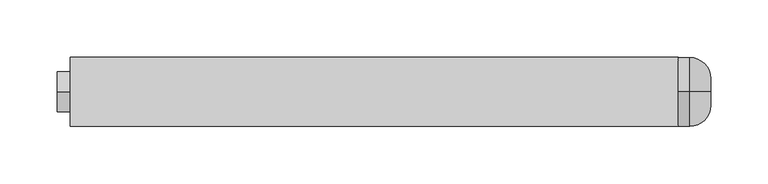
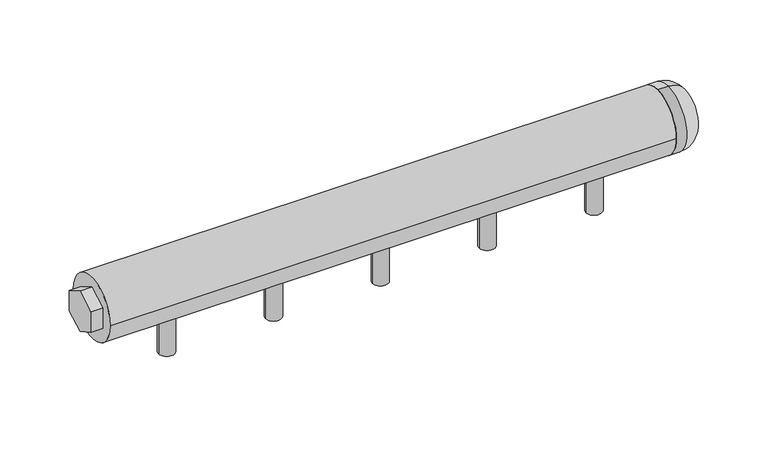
"""IFC4 building model written with IfcOpenShell, lengths in millimetres: valve geometry, Коллектор подающий : Коллектор DN32 - 5 х DN15."""

from ifc_helpers import new_model, si_unit, point, frame, frame_2d, origin, origin_2d, place, context, project, spatial, polyline, circle_curve, ellipse_curve, trimmed, segment, composite_curve, outline, extrude, source, transform, mapped, element, save
from ifc_brep_helpers import plane_surface, cylinder_surface, revolved_surface, advanced_brep


def valve_356c29cf(model_context):
    return source(origin(), model_context, "Body", "SolidModel", [
        extrude(outline(composite_curve([segment(trimmed(circle_curve(frame_2d((481.0, 0.0)), 7.5), [point((473.5, 0.0))], [point((488.5, 0.0))], False, "CARTESIAN"), True, "CONTINUOUS"), segment(trimmed(circle_curve(frame_2d((481.0, 0.0)), 7.5), [point((488.5, 0.0))], [point((473.5, 0.0))], False, "CARTESIAN"), True, "CONTINUOUS")], self_intersect=False)), frame((0.0, 0.0, -68.0), z_axis=(0.0, 0.0, 1.0), x_axis=(1.0, 0.0, 0.0)), (0.0, 0.0, 1.0), 68.0),
        extrude(outline(composite_curve([segment(trimmed(circle_curve(frame_2d((381.0, 0.0)), 7.5), [point((373.5, 0.0))], [point((388.5, 0.0))], False, "CARTESIAN"), True, "CONTINUOUS"), segment(trimmed(circle_curve(frame_2d((381.0, 0.0)), 7.5), [point((388.5, 0.0))], [point((373.5, 0.0))], False, "CARTESIAN"), True, "CONTINUOUS")], self_intersect=False)), frame((0.0, 0.0, -68.0), z_axis=(0.0, 0.0, 1.0), x_axis=(1.0, 0.0, 0.0)), (0.0, 0.0, 1.0), 68.0),
        extrude(outline(composite_curve([segment(trimmed(circle_curve(frame_2d((281.0, 0.0)), 7.5), [point((273.5, 0.0))], [point((288.5, 0.0))], False, "CARTESIAN"), True, "CONTINUOUS"), segment(trimmed(circle_curve(frame_2d((281.0, 0.0)), 7.5), [point((288.5, 0.0))], [point((273.5, 0.0))], False, "CARTESIAN"), True, "CONTINUOUS")], self_intersect=False)), frame((0.0, 0.0, -68.0), z_axis=(0.0, 0.0, 1.0), x_axis=(1.0, 0.0, 0.0)), (0.0, 0.0, 1.0), 68.0),
        extrude(outline(composite_curve([segment(trimmed(circle_curve(frame_2d((181.0, 0.0)), 7.5), [point((173.5, 0.0))], [point((188.5, 0.0))], False, "CARTESIAN"), True, "CONTINUOUS"), segment(trimmed(circle_curve(frame_2d((181.0, 0.0)), 7.5), [point((188.5, 0.0))], [point((173.5, 0.0))], False, "CARTESIAN"), True, "CONTINUOUS")], self_intersect=False)), frame((0.0, 0.0, -68.0), z_axis=(0.0, 0.0, 1.0), x_axis=(1.0, 0.0, 0.0)), (0.0, 0.0, 1.0), 68.0),
        extrude(outline(composite_curve([segment(trimmed(circle_curve(frame_2d((81.0, 0.0)), 7.5), [point((73.5, 0.0))], [point((88.5, 0.0))], False, "CARTESIAN"), True, "CONTINUOUS"), segment(trimmed(circle_curve(frame_2d((81.0, 0.0)), 7.5), [point((88.5, 0.0))], [point((73.5, 0.0))], False, "CARTESIAN"), True, "CONTINUOUS")], self_intersect=False)), frame((0.0, 0.0, -68.0), z_axis=(0.0, 0.0, 1.0), x_axis=(1.0, 0.0, 0.0)), (0.0, 0.0, 1.0), 68.0),
        extrude(outline(polyline([(17.5, 10.1036297), (17.5, -10.1036297), (0.0, -20.2072594), (-17.5, -10.1036297), (-17.5, 10.1036297), (0.0, 20.2072594), (17.5, 10.1036297)])), frame((0.0, 0.0, 0.0), z_axis=(1.0, 0.0, 0.0), x_axis=(0.0, 1.0, 0.0)), (0.0, 0.0, 1.0), 11.0),
        advanced_brep(
        [(541.0, 0.0, 0.0), (541.0, 0.0, -30.0), (541.0, 0.0, 30.0), (569.0, 0.0, -12.0), (569.0, 0.0, 0.0), (569.0, 0.0, 12.0), (551.0, 0.0, -30.0), (551.0, 0.0, 30.0)],
        [
            (0, 1),
            (1, 2, circle_curve(frame((541.0, 0.0, 0.0), z_axis=(-1.0, 0.0, 0.0), x_axis=(0.0, 0.0, 1.0)), 30.0)),
            (2, 0),
            (2, 1, circle_curve(frame((541.0, 0.0, 0.0), z_axis=(-1.0, 0.0, 0.0), x_axis=(0.0, 0.0, 1.0)), 30.0)),
            (3, 4),
            (4, 5),
            (5, 3, circle_curve(frame((569.0, 0.0, 0.0), z_axis=(1.0, 0.0, 0.0), x_axis=(0.0, 0.0, 1.0)), 12.0)),
            (3, 5, circle_curve(frame((569.0, 0.0, 0.0), z_axis=(1.0, 0.0, 0.0), x_axis=(0.0, 0.0, 1.0)), 12.0)),
            (6, 3, circle_curve(frame((551.0, 0.0, -12.0), z_axis=(0.0, -1.0, 0.0), x_axis=(1.0, 0.0, 0.0)), 18.0)),
            (5, 7, circle_curve(frame((551.0, 0.0, 12.0), z_axis=(0.0, -1.0, 0.0), x_axis=(1.0, 0.0, 0.0)), 18.0)),
            (7, 6, circle_curve(frame((551.0, 0.0, 0.0), z_axis=(1.0, 0.0, 0.0), x_axis=(0.0, 0.0, 1.0)), 30.0)),
            (6, 7, circle_curve(frame((551.0, 0.0, 0.0), z_axis=(1.0, 0.0, 0.0), x_axis=(0.0, 0.0, 1.0)), 30.0)),
            (1, 6),
            (7, 2),
        ],
        [
            plane_surface(frame((541.0, 0.0, 0.0), z_axis=(-1.0, 0.0, 0.0), x_axis=(0.0, 0.0, 1.0))),
            plane_surface(frame((569.0, 0.0, 0.0), z_axis=(1.0, 0.0, 0.0), x_axis=(0.0, 0.0, 1.0))),
            revolved_surface(trimmed(ellipse_curve(frame((551.0, 0.0, 12.0), z_axis=(0.0, -1.0, 0.0), x_axis=(1.0, 0.0, 0.0)), 18.0, 18.0), [point((569.0, 0.0, 12.0))], [point((551.0, 0.0, 30.0))], True, "CARTESIAN"), (584.0, 0.0, 0.0), (-1.0, 0.0, 0.0)),
            cylinder_surface(frame((584.0, 0.0, 0.0), z_axis=(-1.0, 0.0, 0.0), x_axis=(0.0, 0.0, 1.0)), 30.0),
        ],
        [
            (0, [[1, 2, 3]]),
            (0, [[-3, 4, -1]]),
            (1, [[5, 6, 7]]),
            (1, [[-6, -5, 8]]),
            (2, [[9, -7, 10, 11]]),
            (2, [[-10, -8, -9, 12]]),
            (3, [[13, -11, 14, -2]]),
            (3, [[-14, -12, -13, -4]]),
        ],
    ),
        extrude(outline(composite_curve([segment(trimmed(circle_curve(origin_2d(), 30.0), [point((30.0, 0.0))], [point((-30.0, 0.0))], False, "CARTESIAN"), True, "CONTINUOUS"), segment(trimmed(circle_curve(origin_2d(), 30.0), [point((-30.0, 0.0))], [point((30.0, 0.0))], False, "CARTESIAN"), True, "CONTINUOUS")], self_intersect=False)), frame((11.0, 0.0, 0.0), z_axis=(1.0, 0.0, 0.0), x_axis=(0.0, 1.0, 0.0)), (0.0, 0.0, 1.0), 530.0),
    ])


if __name__ == "__main__":
    model = new_model("IFC4")
    model_context = context("Model", 3, world=origin())
    ifc_project = project(units=[si_unit("LENGTHUNIT", "METRE", prefix="MILLI")], contexts=[model_context])
    site = spatial("IfcSite", under=ifc_project)
    building = spatial("IfcBuilding", under=site)
    placement = place(None, origin())
    valve_shape = valve_356c29cf(model_context)
    element("IfcValve", 1, ObjectType="Коллектор подающий : Коллектор DN32 - 5 х DN15", at=placement, inside=building, context=model_context, shape_type="MappedRepresentation", body=[
        mapped(valve_shape, transform((0.0, 0.0, 0.0), x_axis=(1.0, 0.0, 0.0), y_axis=(0.0, 1.0, 0.0), z_axis=(0.0, 0.0, 1.0))),
    ])
    save(model, "model.ifc")
